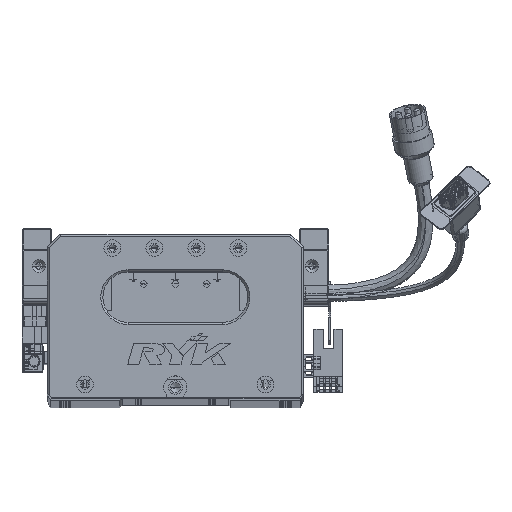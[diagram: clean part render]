
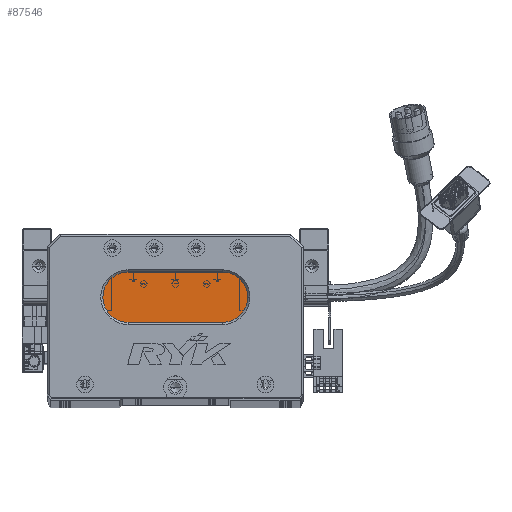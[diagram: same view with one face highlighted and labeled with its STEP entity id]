
A CAD part, top view. The second image highlights one B-rep face of the part: STEP entity #87546.
In plain terms, the highlighted planar face has unit normal (0, 0, 1) as drawn and (0, 0, -1) by its records, which use the part's own axes.
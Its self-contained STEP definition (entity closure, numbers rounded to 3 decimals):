
#1572 = AXIS2_PLACEMENT_3D ( 'NONE', #65221, #82859, #15580 ) ;
#4715 = DIRECTION ( 'NONE',  ( -1., 0., 0. ) ) ;
#4958 = CARTESIAN_POINT ( 'NONE',  ( 38.5, 60., 13. ) ) ;
#8443 = CARTESIAN_POINT ( 'NONE',  ( 83.5, 60., 13. ) ) ;
#15580 = DIRECTION ( 'NONE',  ( -1., 0., 0. ) ) ;
#24571 = VERTEX_POINT ( 'NONE', #4958 ) ;
#27565 = EDGE_CURVE ( 'NONE', #24571, #48027, #108071, .T. ) ;
#29942 = ORIENTED_EDGE ( 'NONE', *, *, #65441, .T. ) ;
#31991 = VERTEX_POINT ( 'NONE', #43399 ) ;
#35415 = VECTOR ( 'NONE', #4715, 1000. ) ;
#36721 = ORIENTED_EDGE ( 'NONE', *, *, #76979, .T. ) ;
#36876 = AXIS2_PLACEMENT_3D ( 'NONE', #47089, #80881, #56641 ) ;
#37454 = ORIENTED_EDGE ( 'NONE', *, *, #109015, .T. ) ;
#43399 = CARTESIAN_POINT ( 'NONE',  ( 38.5, 36., 13. ) ) ;
#44041 = VERTEX_POINT ( 'NONE', #67561 ) ;
#47089 = CARTESIAN_POINT ( 'NONE',  ( 38.5, 48., 13. ) ) ;
#48027 = VERTEX_POINT ( 'NONE', #8443 ) ;
#49985 = ORIENTED_EDGE ( 'NONE', *, *, #65521, .T. ) ;
#50296 = VERTEX_POINT ( 'NONE', #69812 ) ;
#55533 = DIRECTION ( 'NONE',  ( 0., 0., -1. ) ) ;
#56641 = DIRECTION ( 'NONE',  ( -1., 0., 0. ) ) ;
#58394 = EDGE_LOOP ( 'NONE', ( #36721, #37454, #29942, #49985, #90232 ) ) ;
#61120 = CIRCLE ( 'NONE', #78408, 12. ) ;
#62024 = FACE_OUTER_BOUND ( 'NONE', #58394, .T. ) ;
#65221 = CARTESIAN_POINT ( 'NONE',  ( 83.5, 48., 13. ) ) ;
#65441 = EDGE_CURVE ( 'NONE', #31991, #50296, #70397, .T. ) ;
#65521 = EDGE_CURVE ( 'NONE', #50296, #24571, #61120, .T. ) ;
#67561 = CARTESIAN_POINT ( 'NONE',  ( 83.5, 36., 13. ) ) ;
#69812 = CARTESIAN_POINT ( 'NONE',  ( 26.5, 48., 13. ) ) ;
#70397 = CIRCLE ( 'NONE', #36876, 12. ) ;
#73177 = DIRECTION ( 'NONE',  ( -1., 0., 0. ) ) ;
#75112 = PLANE ( 'NONE',  #1572 ) ;
#76979 = EDGE_CURVE ( 'NONE', #48027, #44041, #108906, .T. ) ;
#78408 = AXIS2_PLACEMENT_3D ( 'NONE', #80514, #55533, #73177 ) ;
#80514 = CARTESIAN_POINT ( 'NONE',  ( 38.5, 48., 13. ) ) ;
#80881 = DIRECTION ( 'NONE',  ( 0., 0., -1. ) ) ;
#82859 = DIRECTION ( 'NONE',  ( 0., 0., -1. ) ) ;
#87546 = ADVANCED_FACE ( 'NONE', ( #62024 ), #75112, .T. ) ;
#89971 = CARTESIAN_POINT ( 'NONE',  ( 83.5, 36., 13. ) ) ;
#90232 = ORIENTED_EDGE ( 'NONE', *, *, #27565, .T. ) ;
#92576 = DIRECTION ( 'NONE',  ( 0., 0., -1. ) ) ;
#94553 = LINE ( 'NONE', #89971, #35415 ) ;
#97407 = AXIS2_PLACEMENT_3D ( 'NONE', #101751, #92576, #101027 ) ;
#97610 = DIRECTION ( 'NONE',  ( 1., 0., 0. ) ) ;
#101027 = DIRECTION ( 'NONE',  ( -1., 0., 0. ) ) ;
#101751 = CARTESIAN_POINT ( 'NONE',  ( 83.5, 48., 13. ) ) ;
#102798 = VECTOR ( 'NONE', #97610, 1000. ) ;
#105324 = CARTESIAN_POINT ( 'NONE',  ( 83.5, 60., 13. ) ) ;
#108071 = LINE ( 'NONE', #105324, #102798 ) ;
#108906 = CIRCLE ( 'NONE', #97407, 12. ) ;
#109015 = EDGE_CURVE ( 'NONE', #44041, #31991, #94553, .T. ) ;
